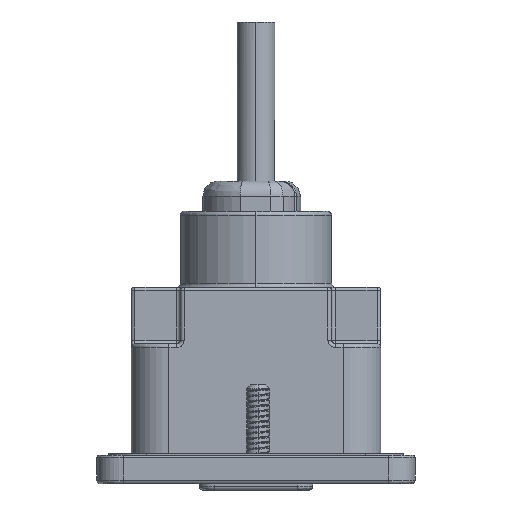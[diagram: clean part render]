
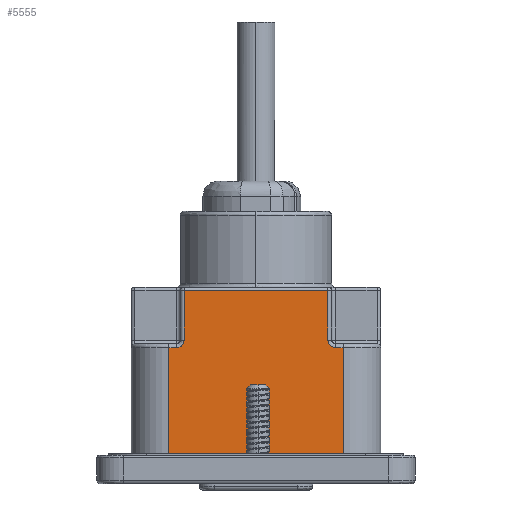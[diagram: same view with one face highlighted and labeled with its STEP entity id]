
A CAD part, left-side view. The second image highlights one B-rep face of the part: STEP entity #5555.
In plain terms, the highlighted planar face has unit normal (-1, 0, 0).
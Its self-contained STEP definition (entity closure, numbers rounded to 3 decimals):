
#529 = ORIENTED_EDGE ( 'NONE', *, *, #5827, .F. ) ;
#1861 = CARTESIAN_POINT ( 'NONE',  ( -40.5, -11.5, 17. ) ) ;
#2410 = DIRECTION ( 'NONE',  ( 1., 0., 0. ) ) ;
#2436 = LINE ( 'NONE', #9163, #9466 ) ;
#2610 = CARTESIAN_POINT ( 'NONE',  ( -40.5, -11.5, 17. ) ) ;
#2822 = LINE ( 'NONE', #24928, #8196 ) ;
#3033 = DIRECTION ( 'NONE',  ( 0., 0., 1. ) ) ;
#4641 = LINE ( 'NONE', #2610, #23248 ) ;
#4709 = LINE ( 'NONE', #5697, #17084 ) ;
#4878 = CARTESIAN_POINT ( 'NONE',  ( -40.5, 9.5, 17.414 ) ) ;
#5461 = CARTESIAN_POINT ( 'NONE',  ( -40.5, 10.5, 17. ) ) ;
#5555 = ADVANCED_FACE ( 'NONE', ( #23796 ), #34090, .F. ) ;
#5697 = CARTESIAN_POINT ( 'NONE',  ( -40.5, 9.5, 25. ) ) ;
#5827 = EDGE_CURVE ( 'NONE', #8302, #32974, #23363, .T. ) ;
#5975 = ORIENTED_EDGE ( 'NONE', *, *, #32920, .F. ) ;
#6514 = ORIENTED_EDGE ( 'NONE', *, *, #18380, .F. ) ;
#7164 = DIRECTION ( 'NONE',  ( 0., -1., 0. ) ) ;
#7522 = CARTESIAN_POINT ( 'NONE',  ( -40.5, 9.5, 18. ) ) ;
#7535 = EDGE_CURVE ( 'NONE', #15013, #20815, #25272, .T. ) ;
#8196 = VECTOR ( 'NONE', #9086, 1000. ) ;
#8302 = VERTEX_POINT ( 'NONE', #24486 ) ;
#9086 = DIRECTION ( 'NONE',  ( 0., 0., -1. ) ) ;
#9163 = CARTESIAN_POINT ( 'NONE',  ( -40.5, -19.5, 3. ) ) ;
#9407 = EDGE_CURVE ( 'NONE', #20815, #27711, #9747, .T. ) ;
#9466 = VECTOR ( 'NONE', #27657, 1000. ) ;
#9577 = CARTESIAN_POINT ( 'NONE',  ( -40.5, -11.5, 3. ) ) ;
#9747 = LINE ( 'NONE', #1861, #22976 ) ;
#10131 = DIRECTION ( 'NONE',  ( 0., -1., 0. ) ) ;
#10339 = VERTEX_POINT ( 'NONE', #9577 ) ;
#10796 = CARTESIAN_POINT ( 'NONE',  ( -40.5, 11.5, 17. ) ) ;
#11280 = VECTOR ( 'NONE', #10131, 1000. ) ;
#11986 = DIRECTION ( 'NONE',  ( 0., 0., 1. ) ) ;
#12745 = EDGE_CURVE ( 'NONE', #30247, #30141, #13835, .T. ) ;
#13835 =( BOUNDED_CURVE ( )  B_SPLINE_CURVE ( 3, ( #23366, #20716, #4878, #7522 ),
 .UNSPECIFIED., .F., .F. ) 
 B_SPLINE_CURVE_WITH_KNOTS ( ( 4, 4 ),
 ( 0., 1. ),
 .UNSPECIFIED. ) 
 CURVE ( )  GEOMETRIC_REPRESENTATION_ITEM ( )  RATIONAL_B_SPLINE_CURVE ( ( 1., 0.805, 0.805, 1. ) ) 
 REPRESENTATION_ITEM ( '' )  );
#14353 = VERTEX_POINT ( 'NONE', #33765 ) ;
#14393 = ORIENTED_EDGE ( 'NONE', *, *, #7535, .F. ) ;
#15013 = VERTEX_POINT ( 'NONE', #21476 ) ;
#15030 = CARTESIAN_POINT ( 'NONE',  ( -40.5, -9.914, 17. ) ) ;
#15043 = EDGE_LOOP ( 'NONE', ( #16605, #14393, #31243, #6514, #33767, #33084, #5975, #529, #15415, #19231 ) ) ;
#15256 = CARTESIAN_POINT ( 'NONE',  ( -40.5, 9.5, 18. ) ) ;
#15415 = ORIENTED_EDGE ( 'NONE', *, *, #21169, .F. ) ;
#16605 = ORIENTED_EDGE ( 'NONE', *, *, #9407, .F. ) ;
#17084 = VECTOR ( 'NONE', #3033, 1000. ) ;
#17432 = EDGE_CURVE ( 'NONE', #27643, #15013, #21290, .T. ) ;
#17694 = CARTESIAN_POINT ( 'NONE',  ( -40.5, -10.5, 17. ) ) ;
#18304 = DIRECTION ( 'NONE',  ( 0., -1., 0. ) ) ;
#18380 = EDGE_CURVE ( 'NONE', #14353, #27643, #32388, .T. ) ;
#19231 = ORIENTED_EDGE ( 'NONE', *, *, #29197, .F. ) ;
#20084 = CARTESIAN_POINT ( 'NONE',  ( -40.5, -9.5, 24.5 ) ) ;
#20716 = CARTESIAN_POINT ( 'NONE',  ( -40.5, 9.914, 17. ) ) ;
#20815 = VERTEX_POINT ( 'NONE', #28701 ) ;
#20927 = DIRECTION ( 'NONE',  ( 0., 0., -1. ) ) ;
#21169 = EDGE_CURVE ( 'NONE', #10339, #8302, #2436, .T. ) ;
#21290 = LINE ( 'NONE', #27084, #29125 ) ;
#21476 = CARTESIAN_POINT ( 'NONE',  ( -40.5, -9.5, 18. ) ) ;
#22638 = CARTESIAN_POINT ( 'NONE',  ( -40.5, 11.5, 25. ) ) ;
#22976 = VECTOR ( 'NONE', #7164, 1000. ) ;
#23248 = VECTOR ( 'NONE', #18304, 1000. ) ;
#23363 = LINE ( 'NONE', #22638, #29552 ) ;
#23366 = CARTESIAN_POINT ( 'NONE',  ( -40.5, 10.5, 17. ) ) ;
#23796 = FACE_OUTER_BOUND ( 'NONE', #15043, .T. ) ;
#24486 = CARTESIAN_POINT ( 'NONE',  ( -40.5, 11.5, 3. ) ) ;
#24928 = CARTESIAN_POINT ( 'NONE',  ( -40.5, -11.5, 25. ) ) ;
#25272 =( BOUNDED_CURVE ( )  B_SPLINE_CURVE ( 3, ( #28225, #30776, #15030, #17694 ),
 .UNSPECIFIED., .F., .F. ) 
 B_SPLINE_CURVE_WITH_KNOTS ( ( 4, 4 ),
 ( 0., 1. ),
 .UNSPECIFIED. ) 
 CURVE ( )  GEOMETRIC_REPRESENTATION_ITEM ( )  RATIONAL_B_SPLINE_CURVE ( ( 1., 0.805, 0.805, 1. ) ) 
 REPRESENTATION_ITEM ( '' )  );
#25592 = CARTESIAN_POINT ( 'NONE',  ( -40.5, -11.5, 17. ) ) ;
#27084 = CARTESIAN_POINT ( 'NONE',  ( -40.5, -9.5, 25. ) ) ;
#27643 = VERTEX_POINT ( 'NONE', #20084 ) ;
#27657 = DIRECTION ( 'NONE',  ( 0., 1., 0. ) ) ;
#27711 = VERTEX_POINT ( 'NONE', #25592 ) ;
#28225 = CARTESIAN_POINT ( 'NONE',  ( -40.5, -9.5, 18. ) ) ;
#28624 = CARTESIAN_POINT ( 'NONE',  ( -40.5, -11.5, 24.5 ) ) ;
#28701 = CARTESIAN_POINT ( 'NONE',  ( -40.5, -10.5, 17. ) ) ;
#28752 = CARTESIAN_POINT ( 'NONE',  ( -40.5, -11.5, 25. ) ) ;
#29125 = VECTOR ( 'NONE', #29716, 1000. ) ;
#29197 = EDGE_CURVE ( 'NONE', #27711, #10339, #2822, .T. ) ;
#29552 = VECTOR ( 'NONE', #11986, 1000. ) ;
#29716 = DIRECTION ( 'NONE',  ( 0., 0., -1. ) ) ;
#30141 = VERTEX_POINT ( 'NONE', #15256 ) ;
#30247 = VERTEX_POINT ( 'NONE', #5461 ) ;
#30776 = CARTESIAN_POINT ( 'NONE',  ( -40.5, -9.5, 17.414 ) ) ;
#31243 = ORIENTED_EDGE ( 'NONE', *, *, #17432, .F. ) ;
#31837 = EDGE_CURVE ( 'NONE', #30141, #14353, #4709, .T. ) ;
#32388 = LINE ( 'NONE', #28624, #11280 ) ;
#32920 = EDGE_CURVE ( 'NONE', #32974, #30247, #4641, .T. ) ;
#32937 = AXIS2_PLACEMENT_3D ( 'NONE', #28752, #2410, #20927 ) ;
#32974 = VERTEX_POINT ( 'NONE', #10796 ) ;
#33084 = ORIENTED_EDGE ( 'NONE', *, *, #12745, .F. ) ;
#33765 = CARTESIAN_POINT ( 'NONE',  ( -40.5, 9.5, 24.5 ) ) ;
#33767 = ORIENTED_EDGE ( 'NONE', *, *, #31837, .F. ) ;
#34090 = PLANE ( 'NONE',  #32937 ) ;
